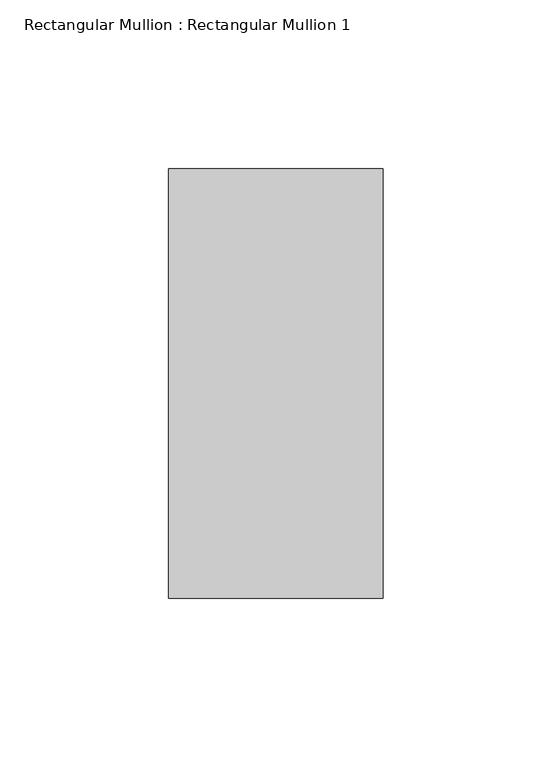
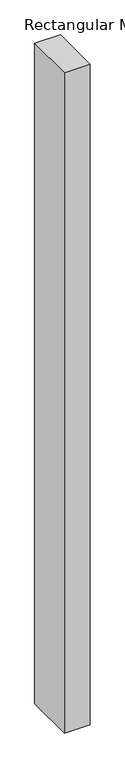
"""IFC4 building model written with IfcOpenShell, lengths in millimetres: member geometry, Rectangular Mullion : Rectangular Mullion 1."""

from ifc_helpers import new_model, si_unit, frame, origin, place, context, project, spatial, polyline, outline, extrude, source, transform, mapped, element, save


def rectangular_mullion_rectangular_mullion_1_2bdda2b5(model_context):
    return source(origin(), model_context, "Body", "SweptSolid", [
        extrude(outline(polyline([(0.0, 63.5), (0.0, -63.5), (-63.5, -63.5), (-63.5, 63.5), (0.0, 63.5)])), frame((0.0, 0.0, -1726.4999999), z_axis=(0.0, 0.0, 1.0), x_axis=(1.0, 0.0, 0.0)), (0.0, 0.0, 1.0), 1726.4999999),
    ])


if __name__ == "__main__":
    model = new_model("IFC4")
    model_context = context("Model", 3, world=origin())
    ifc_project = project(units=[si_unit("LENGTHUNIT", "METRE", prefix="MILLI")], contexts=[model_context])
    site = spatial("IfcSite", under=ifc_project)
    building = spatial("IfcBuilding", under=site)
    placement = place(None, origin())
    rectangular_mullion_rectangular_mullion_1_shape = rectangular_mullion_rectangular_mullion_1_2bdda2b5(model_context)
    element("IfcMember", 1, ObjectType="Rectangular Mullion : Rectangular Mullion 1", at=placement, inside=building, context=model_context, shape_type="MappedRepresentation", body=[
        mapped(rectangular_mullion_rectangular_mullion_1_shape, transform((0.0, 0.0, 0.0), x_axis=(1.0, 0.0, 0.0), y_axis=(0.0, 1.0, 0.0), z_axis=(0.0, 0.0, 1.0))),
    ])
    save(model, "model.ifc")
